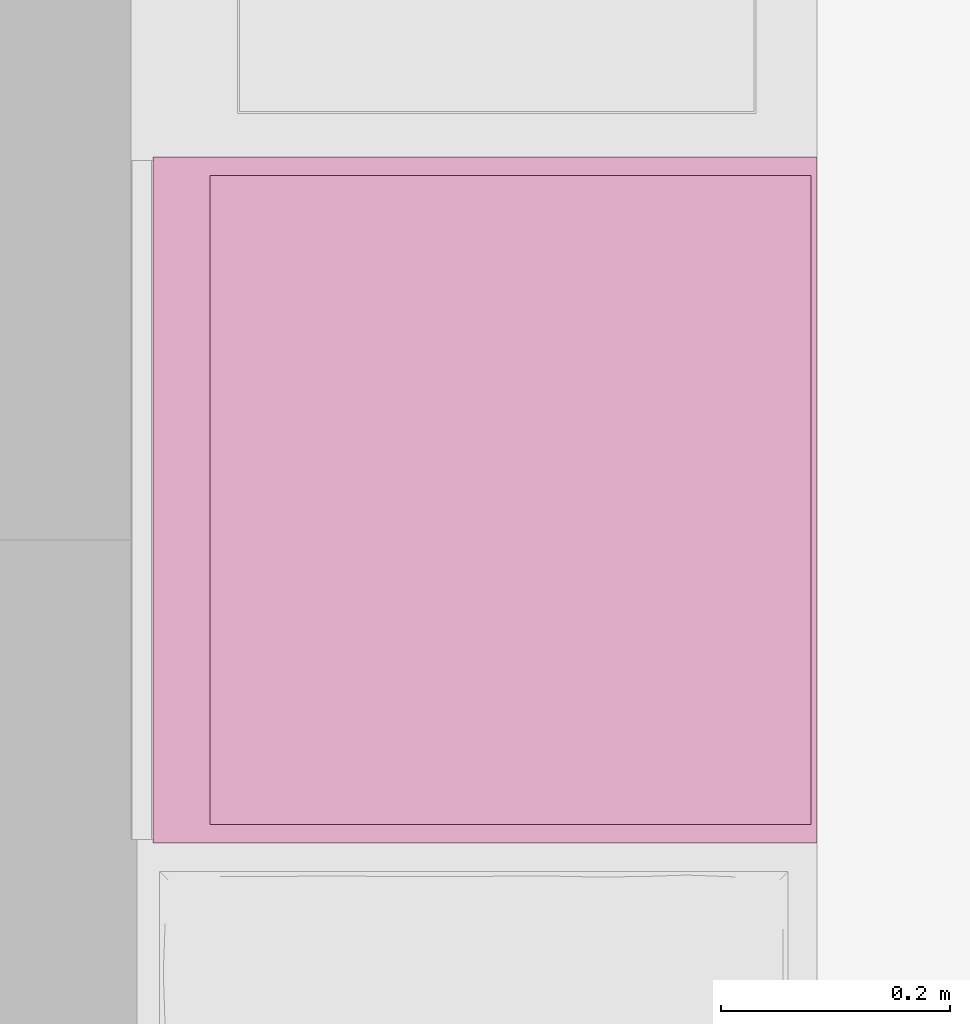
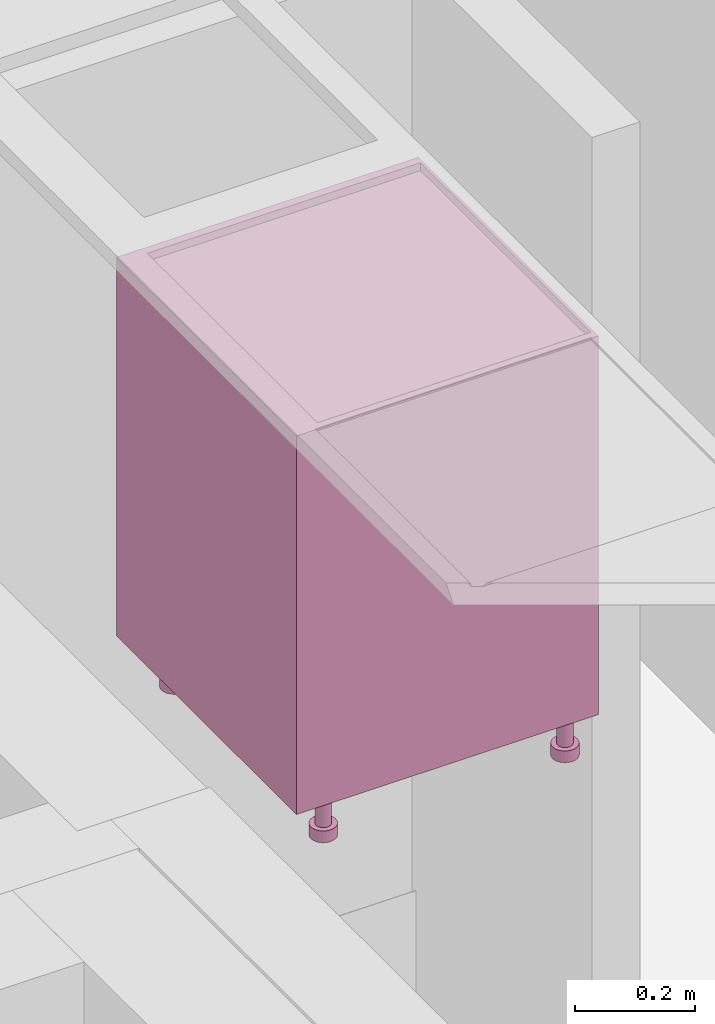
# One storey, part 23 of 68: 1 furnishing.
"""IFC2X3 building model written with IfcOpenShell, lengths in millimetres."""

import ifcopenshell
import ifcopenshell.guid

model = None  # the IFC model being written
_history = None  # IfcOwnerHistory: only IFC2X3 demands one
_inside = {}  # id of a spatial element -> (the spatial element, [elements in it])
_under = {}  # id of a project, library or spatial element -> (it, [spatial elements below it])
_declared = {}  # id of a project -> (the project, [libraries it declares])
_typed = {}  # id of a type object -> (the type object, [elements of that type])
_made_of = {}  # id of a material, layer set ... -> (it, [elements and type objects made of it])


def new_model(schema):
    """Start an empty IFC model of exactly this schema.

    Asked for "IFC4X3", IfcOpenShell would pick the latest addendum, in which some entities
    have other attributes; the version numbers below select the first issue.
    IFC2X3 requires an IfcOwnerHistory on every rooted entity: one is made here for all.
    """
    global model, _history
    if schema == "IFC4X3":
        model = ifcopenshell.file(schema_version=(4, 3, 0, 0))
    else:
        model = ifcopenshell.file(schema=schema)
    _inside.clear()
    _under.clear()
    _declared.clear()
    _typed.clear()
    _made_of.clear()
    _history = None
    if model.schema == "IFC2X3":
        org = make("IfcOrganization", Name="unknown")
        user = make(
            "IfcPersonAndOrganization",
            ThePerson=make("IfcPerson", FamilyName="unknown"),
            TheOrganization=org,
        )
        app = make(
            "IfcApplication",
            ApplicationDeveloper=org,
            Version="unknown",
            ApplicationFullName="unknown",
            ApplicationIdentifier="unknown",
        )
        _history = make(
            "IfcOwnerHistory",
            OwningUser=user,
            OwningApplication=app,
            ChangeAction="ADDED",
            CreationDate=0,
        )
    return model


def make(cls, **values):
    """One entity of the class cls with the attributes given. An attribute that is None is left unset."""
    return model.create_entity(
        cls, **{name: value for name, value in values.items() if value is not None}
    )


def entity(cls, *values):
    """Any entity or typed value of the class cls, its attributes in the order of the schema. None: left unset."""
    e = model.create_entity(cls)
    for i, value in enumerate(values):
        if value is not None:
            e[i] = value
    return e


def rooted(cls, **values):
    """An entity with a GlobalId (a new one), such as an element, a storey or a relation."""
    return make(cls, GlobalId=ifcopenshell.guid.new(), OwnerHistory=_history, **values)


def si_unit(unit_type, name, prefix=None):
    """IfcSIUnit, for example si_unit("LENGTHUNIT", "METRE", prefix="MILLI")."""
    return make("IfcSIUnit", UnitType=unit_type, Prefix=prefix, Name=name)


def converted_unit(unit_type, name, factor, base, dimensions=None, offset=None):
    """IfcConversionBasedUnit, such as the inch: factor (a typed value) times the base unit."""
    return make(
        "IfcConversionBasedUnit"
        if offset is None
        else "IfcConversionBasedUnitWithOffset",
        ConversionOffset=offset,
        Dimensions=None
        if dimensions is None
        else entity("IfcDimensionalExponents", *dimensions),
        UnitType=unit_type,
        Name=name,
        ConversionFactor=make(
            "IfcMeasureWithUnit", ValueComponent=factor, UnitComponent=base
        ),
    )


def assignment(units):
    """IfcUnitAssignment: the units of a project."""
    return None if units is None else make("IfcUnitAssignment", Units=units)


def point(xyz):
    """IfcCartesianPoint."""
    return None if xyz is None else make("IfcCartesianPoint", Coordinates=xyz)


def direction(xyz):
    """IfcDirection."""
    return None if xyz is None else make("IfcDirection", DirectionRatios=xyz)


def frame(location, z_axis=None, x_axis=None):
    """IfcAxis2Placement3D, a coordinate frame: its origin and axes. An axis left out is left unset."""
    return make(
        "IfcAxis2Placement3D",
        Location=point(location),
        Axis=direction(z_axis),
        RefDirection=direction(x_axis),
    )


def origin():
    """The frame at (0, 0, 0) with its axes left unset."""
    return frame((0.0, 0.0, 0.0))


def place(relative_to, where):
    """IfcLocalPlacement: puts the frame where relative to a parent placement (None: the world)."""
    return make(
        "IfcLocalPlacement", PlacementRelTo=relative_to, RelativePlacement=where
    )


def context(
    kind, dimensions, precision=None, world=None, true_north=None, identifier=None
):
    """IfcGeometricRepresentationContext, for example the 3D "Model" context."""
    return make(
        "IfcGeometricRepresentationContext",
        ContextIdentifier=identifier,
        ContextType=kind,
        CoordinateSpaceDimension=dimensions,
        Precision=precision,
        WorldCoordinateSystem=world,
        TrueNorth=true_north,
    )


def subcontext(parent, identifier, kind, view, scale=None):
    """IfcGeometricRepresentationSubContext, for example "Body" below "Model"."""
    return make(
        "IfcGeometricRepresentationSubContext",
        ContextIdentifier=identifier,
        ContextType=kind,
        ParentContext=parent,
        TargetScale=scale,
        TargetView=view,
    )


def project(units=None, contexts=None):
    """IfcProject with its units and contexts."""
    return rooted(
        "IfcProject",
        Name="project",
        RepresentationContexts=contexts,
        UnitsInContext=assignment(units),
    )


def spatial(cls, under=None, at=None, **own):
    """A site, building, storey or space (cls), placed at a placement, below another one or the project."""
    s = rooted(cls, ObjectPlacement=at, **own)
    if under is not None:
        _under.setdefault(under.id(), (under, []))[1].append(s)
    return s


def faces_of(points, faces, orient=None, outer=None):
    """IfcFace entities. A face is a list of loops; a loop is a list of indices into points, from 0.

    orient and outer hold one flag for each loop. By default every Orientation is true, the
    first loop of a face is its IfcFaceOuterBound and the others are IfcFaceBound.
    """
    made = []
    for i, loops in enumerate(faces):
        bounds = []
        for j, loop in enumerate(loops):
            is_outer = j == 0 if outer is None else outer[i][j]
            bounds.append(
                make(
                    "IfcFaceOuterBound" if is_outer else "IfcFaceBound",
                    Bound=make("IfcPolyLoop", Polygon=[points[k] for k in loop]),
                    Orientation=True if orient is None else orient[i][j],
                )
            )
        made.append(make("IfcFace", Bounds=bounds))
    return made


def faceted_brep(points, faces, orient=None, outer=None, voids=None):
    """IfcFacetedBrep: a solid bounded by flat faces; with voids (closed shells), ...WithVoids."""
    shared = [point(p) for p in points]
    hull = make("IfcClosedShell", CfsFaces=faces_of(shared, faces, orient, outer))
    if voids is None:
        return make("IfcFacetedBrep", Outer=hull)
    return make(
        "IfcFacetedBrepWithVoids",
        Outer=hull,
        Voids=[
            make(cls, CfsFaces=faces_of(shared, fs, o, b)) for cls, fs, o, b in voids
        ],
    )


def shape(context_of_items, identifier, shape_type, items):
    """IfcShapeRepresentation: the items that make up one representation, for example the "Body"."""
    return make(
        "IfcShapeRepresentation",
        ContextOfItems=context_of_items,
        RepresentationIdentifier=identifier,
        RepresentationType=shape_type,
        Items=items,
    )


def source(mapping_origin, context_of_items, identifier, shape_type, items):
    """IfcRepresentationMap: a shape defined once, which mapped items show again and again."""
    return make(
        "IfcRepresentationMap",
        MappingOrigin=mapping_origin,
        MappedRepresentation=shape(context_of_items, identifier, shape_type, items),
    )


def transform(
    local_origin,
    x_axis=None,
    y_axis=None,
    z_axis=None,
    scale=None,
    scale2=None,
    scale3=None,
    uniform=True,
):
    """IfcCartesianTransformationOperator3D, or its non-uniform kind. x_axis, y_axis, z_axis: its Axis1, 2, 3."""
    if uniform:
        return make(
            "IfcCartesianTransformationOperator3D",
            Axis1=direction(x_axis),
            Axis2=direction(y_axis),
            LocalOrigin=point(local_origin),
            Scale=scale,
            Axis3=direction(z_axis),
        )
    return make(
        "IfcCartesianTransformationOperator3DnonUniform",
        Axis1=direction(x_axis),
        Axis2=direction(y_axis),
        LocalOrigin=point(local_origin),
        Scale=scale,
        Axis3=direction(z_axis),
        Scale2=scale2,
        Scale3=scale3,
    )


def mapped(mapping_source, mapping_target):
    """IfcMappedItem: shows the shape of a source again, moved by a transform."""
    return make(
        "IfcMappedItem", MappingSource=mapping_source, MappingTarget=mapping_target
    )


def material(Name=None, Category=None):
    """IfcMaterial."""
    return make("IfcMaterial", Name=Name, Category=Category)


def made_of(thing, what):
    """Note that an element or type object is made of a material, layer set ...; save() writes the relation."""
    if what is not None:
        _made_of.setdefault(what.id(), (what, []))[1].append(thing)
    return thing


def type_object(cls, material=None, **own):
    """A type object (cls), such as IfcWallType, which elements share."""
    return made_of(rooted(cls, **own), material)


def type_shapes(of_type, sources):
    """Give a type object the sources (RepresentationMaps) that its elements show as mapped items."""
    of_type.RepresentationMaps = sources


def element(
    cls,
    number,
    at=None,
    inside=None,
    cuts=None,
    type_object=None,
    material=None,
    context=None,
    identifier="Body",
    shape_type=None,
    held_by="IfcProductDefinitionShape",
    body=None,
    shapes=None,
    **own,
):
    """One element of the class cls, such as IfcWall. Its Tag is "e" and its number.

    at: its placement. inside: the storey or other place that contains it. cuts: it is an
    opening in that element (IfcRelVoidsElement). A single representation is given by context,
    identifier, shape_type and body (its items); several are given by shapes. held_by: the class
    of the entity that holds the representations. save() writes the other relations.
    """
    e = rooted(cls, Tag="e%d" % number, ObjectPlacement=at, **own)
    if body is not None:
        shapes = [shape(context, identifier, shape_type, body)]
    if shapes is not None:
        e.Representation = make(held_by, Representations=shapes)
    if inside is not None:
        _inside.setdefault(inside.id(), (inside, []))[1].append(e)
    if cuts is not None:
        rooted(
            "IfcRelVoidsElement", RelatingBuildingElement=cuts, RelatedOpeningElement=e
        )
    if type_object is not None:
        _typed.setdefault(type_object.id(), (type_object, []))[1].append(e)
    return made_of(e, material)


def aggregate(whole, parts):
    """IfcRelAggregates: a whole, such as a stair, and the parts it consists of."""
    return rooted("IfcRelAggregates", RelatingObject=whole, RelatedObjects=parts)


def save(model, path):
    """Write the relations noted so far, then the file.

    IfcRelAggregates (storeys below a building ...), IfcRelContainedInSpatialStructure (elements
    in a storey), IfcRelDefinesByType, IfcRelAssociatesMaterial and IfcRelDeclares: one each for
    every whole, place, type object, material and project.
    """
    for whole, parts in _under.values():
        aggregate(whole, parts)
    for where, things in _inside.values():
        rooted(
            "IfcRelContainedInSpatialStructure",
            RelatedElements=things,
            RelatingStructure=where,
        )
    for kind, things in _typed.values():
        rooted("IfcRelDefinesByType", RelatedObjects=things, RelatingType=kind)
    for what, things in _made_of.values():
        rooted("IfcRelAssociatesMaterial", RelatedObjects=things, RelatingMaterial=what)
    for by, libraries in _declared.values():
        rooted("IfcRelDeclares", RelatingContext=by, RelatedDefinitions=libraries)
    model.write(path)


model = new_model("IFC2X3")

# Units and contexts
model_context = context("Model", 3, precision=0.01, world=origin(), true_north=direction((6.123233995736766e-17, 1.0)))
plan_context = context("Plan", 3, precision=0.01, world=origin(), true_north=direction((6.123233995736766e-17, 1.0)))
body_context = subcontext(model_context, "Body", "Model", "MODEL_VIEW")
ifc_project = project(units=[si_unit("LENGTHUNIT", "METRE", prefix="MILLI"), converted_unit("PLANEANGLEUNIT", "DEGREE", entity("IfcPlaneAngleMeasure", 0.017453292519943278), si_unit("PLANEANGLEUNIT", "RADIAN"), dimensions=[0, 0, 0, 0, 0, 0, 0]), si_unit("AREAUNIT", "SQUARE_METRE")], contexts=[model_context, plan_context])

# Site, building, storey, space
site_placement = place(None, origin())
site = spatial("IfcSite", under=ifc_project, at=site_placement, Name="Default", CompositionType="ELEMENT")
building_placement = place(site_placement, origin())
building = spatial("IfcBuilding", under=site, at=building_placement, CompositionType="ELEMENT")
storey_placement = place(building_placement, frame((0.0, 0.0, 6295.0)))
storey = spatial("IfcBuildingStorey", under=building, at=storey_placement, Name="3K", CompositionType="ELEMENT", Elevation=6294.999999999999)
space_placement = place(storey_placement, origin())
space = spatial("IfcSpace", under=storey, at=space_placement, Name="3-8.2", CompositionType="ELEMENT", InteriorOrExteriorSpace="INTERNAL")

# Furnishing
ifc_material = material(Name="<Unnamed>")
furniture_type = type_object("IfcFurnitureType", Name="HR_Casework_Kitchen_Generic_Appliance_v1:Dishwasher", AssemblyPlace="NOTDEFINED", material=ifc_material)
shared_shape = source(origin(), body_context, "Body", "Brep", [
    faceted_brep([(305.7003264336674, -585.7846096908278, -3101.0), (310.6708891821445, -581.9705627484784, -3101.0), (300.70032643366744, -577.1243556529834, -3101.0), (297.32379306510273, -578.5229615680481, -3101.0), (299.91198351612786, -588.1822198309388, -3101.0), (303.59982137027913, -574.8994949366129, -3101.0), (314.4849361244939, -577.0, -3101.0), (305.82468208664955, -572.0, -3101.0), (307.2232880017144, -568.6234666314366, -3101.0), (316.8825462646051, -571.2116570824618, -3101.0), (307.70032643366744, -565.0, -3101.0), (317.7003264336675, -565.0, -3101.0), (307.2232880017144, -561.3765333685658, -3101.0), (316.88254626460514, -558.7883429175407, -3101.0), (305.82468208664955, -558.0, -3101.0), (314.484936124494, -553.0, -3101.0), (303.59982137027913, -555.1005050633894, -3101.0), (310.67088918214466, -548.0294372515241, -3101.0), (300.70032643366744, -552.875644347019, -3101.0), (305.7003264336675, -544.2153903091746, -3101.0), (297.32379306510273, -551.4770384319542, -3101.0), (299.91198351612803, -541.8177801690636, -3101.0), (293.7003264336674, -551.0, -3101.0), (293.70032643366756, -541.0, -3101.0), (290.07685980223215, -551.4770384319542, -3101.0), (287.488669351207, -541.8177801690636, -3101.0), (286.70032643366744, -552.875644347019, -3101.0), (281.7003264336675, -544.2153903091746, -3101.0), (283.80083149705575, -555.1005050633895, -3101.0), (276.7297636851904, -548.029437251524, -3101.0), (281.5759707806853, -558.0, -3101.0), (272.91571674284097, -553.0, -3101.0), (270.51810660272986, -558.7883429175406, -3101.0), (280.1773648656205, -561.3765333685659, -3101.0), (269.7003264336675, -565.0, -3101.0), (279.7003264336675, -565.0, -3101.0), (270.51810660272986, -571.2116570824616, -3101.0), (280.1773648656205, -568.6234666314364, -3101.0), (272.9157167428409, -577.0, -3101.0), (281.57597078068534, -572.0, -3101.0), (276.7297636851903, -581.9705627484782, -3101.0), (283.80083149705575, -574.8994949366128, -3101.0), (281.70032643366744, -585.7846096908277, -3101.0), (286.70032643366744, -577.1243556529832, -3101.0), (287.4886693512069, -588.1822198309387, -3101.0), (290.07685980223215, -578.5229615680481, -3101.0), (293.7003264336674, -589.0, -3101.0), (293.70032643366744, -579.0, -3101.0), (299.91198351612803, -541.8177801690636, -3125.0), (305.7003264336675, -544.2153903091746, -3125.0), (310.67088918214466, -548.0294372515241, -3125.0), (314.484936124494, -553.0, -3125.0), (316.88254626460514, -558.7883429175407, -3125.0), (317.7003264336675, -565.0, -3125.0), (316.8825462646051, -571.2116570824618, -3125.0), (314.4849361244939, -577.0, -3125.0), (310.6708891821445, -581.9705627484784, -3125.0), (305.7003264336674, -585.7846096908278, -3125.0), (299.91198351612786, -588.1822198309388, -3125.0), (293.7003264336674, -589.0, -3125.0), (287.4886693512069, -588.1822198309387, -3125.0), (281.70032643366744, -585.7846096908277, -3125.0), (276.7297636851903, -581.9705627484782, -3125.0), (272.9157167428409, -577.0, -3125.0), (270.51810660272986, -571.2116570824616, -3125.0), (269.7003264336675, -565.0, -3125.0), (270.51810660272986, -558.7883429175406, -3125.0), (272.91571674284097, -553.0, -3125.0), (276.7297636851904, -548.029437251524, -3125.0), (281.7003264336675, -544.2153903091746, -3125.0), (287.488669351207, -541.8177801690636, -3125.0), (293.70032643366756, -541.0, -3125.0), (297.32379306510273, -578.5229615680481, -3025.0), (300.70032643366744, -577.1243556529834, -3025.0), (303.59982137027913, -574.8994949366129, -3025.0), (305.8246820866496, -572.0, -3025.0), (307.2232880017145, -568.6234666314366, -3025.0), (307.70032643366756, -565.0, -3025.0), (307.2232880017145, -561.3765333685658, -3025.0), (305.8246820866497, -558.0, -3025.0), (303.5998213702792, -555.1005050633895, -3025.0), (300.70032643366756, -552.875644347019, -3025.0), (297.32379306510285, -551.4770384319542, -3025.0), (293.70032643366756, -551.0, -3025.0), (290.07685980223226, -551.4770384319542, -3025.0), (286.70032643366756, -552.875644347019, -3025.0), (283.80083149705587, -555.1005050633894, -3025.0), (281.5759707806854, -558.0, -3025.0), (280.1773648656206, -561.3765333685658, -3025.0), (279.70032643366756, -565.0, -3025.0), (280.1773648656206, -568.6234666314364, -3025.0), (281.5759707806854, -572.0, -3025.0), (283.8008314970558, -574.8994949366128, -3025.0), (286.7003264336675, -577.1243556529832, -3025.0), (290.07685980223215, -578.5229615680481, -3025.0), (293.70032643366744, -579.0, -3025.0)], [[[0, 1, 2]], [[0, 2, 3]], [[3, 4, 0]], [[2, 1, 5]], [[6, 5, 1]], [[7, 5, 6]], [[8, 7, 6]], [[8, 6, 9]], [[8, 9, 10]], [[10, 9, 11]], [[12, 10, 11]], [[12, 11, 13]], [[14, 12, 13]], [[14, 13, 15]], [[16, 14, 15]], [[15, 17, 16]], [[17, 18, 16]], [[18, 17, 19]], [[18, 19, 20]], [[21, 20, 19]], [[20, 21, 22]], [[22, 21, 23]], [[23, 24, 22]], [[24, 23, 25]], [[24, 25, 26]], [[27, 26, 25]], [[27, 28, 26]], [[27, 29, 28]], [[30, 28, 29]], [[31, 30, 29]], [[32, 30, 31]], [[33, 30, 32]], [[33, 32, 34]], [[34, 35, 33]], [[36, 35, 34]], [[36, 37, 35]], [[37, 36, 38]], [[39, 37, 38]], [[39, 38, 40]], [[39, 40, 41]], [[40, 42, 41]], [[41, 42, 43]], [[43, 42, 44]], [[44, 45, 43]], [[46, 45, 44]], [[4, 47, 46]], [[45, 46, 47]], [[4, 3, 47]], [[48, 49, 50, 51, 52, 53, 54, 55, 56, 57, 58, 59, 60, 61, 62, 63, 64, 65, 66, 67, 68, 69, 70, 71]], [[64, 36, 34, 65]], [[63, 38, 36, 64]], [[42, 40, 62, 61]], [[63, 62, 40, 38]], [[44, 42, 61, 60]], [[46, 44, 60, 59]], [[58, 4, 46, 59]], [[57, 0, 4, 58]], [[54, 53, 11, 9]], [[1, 0, 57, 56]], [[6, 55, 54, 9]], [[6, 1, 56, 55]], [[52, 13, 11, 53]], [[51, 15, 13, 52]], [[19, 17, 50, 49]], [[51, 50, 17, 15]], [[21, 19, 49, 48]], [[23, 21, 48, 71]], [[27, 69, 68, 29]], [[31, 67, 66, 32]], [[68, 67, 31, 29]], [[32, 66, 65, 34]], [[25, 70, 69, 27]], [[70, 25, 23, 71]], [[72, 73, 74, 75, 76, 77, 78, 79, 80, 81, 82, 83, 84, 85, 86, 87, 88, 89, 90, 91, 92, 93, 94, 95]], [[37, 39, 91, 90]], [[35, 37, 90, 89]], [[43, 45, 94, 93]], [[41, 43, 93, 92]], [[39, 41, 92, 91]], [[47, 95, 94, 45]], [[2, 5, 74, 73]], [[3, 2, 73, 72]], [[8, 10, 77, 76]], [[7, 8, 76, 75]], [[5, 7, 75, 74]], [[3, 72, 95, 47]], [[79, 78, 12, 14]], [[78, 77, 10, 12]], [[80, 16, 18, 81]], [[16, 80, 79, 14]], [[81, 18, 20, 82]], [[22, 83, 82, 20]], [[26, 28, 86, 85]], [[24, 26, 85, 84]], [[33, 35, 89, 88]], [[30, 33, 88, 87]], [[28, 30, 87, 86]], [[24, 84, 83, 22]]]),
    faceted_brep([(-192.29967356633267, -585.7846096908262, -3101.0), (-187.3291108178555, -581.9705627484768, -3101.0), (-197.29967356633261, -577.1243556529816, -3101.0), (-200.67620693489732, -578.5229615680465, -3101.0), (-198.08801648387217, -588.1822198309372, -3101.0), (-194.40017862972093, -574.8994949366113, -3101.0), (-183.51506387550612, -577.0, -3101.0), (-192.17531791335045, -572.0, -3101.0), (-190.77671199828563, -568.6234666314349, -3101.0), (-181.11745373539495, -571.2116570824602, -3101.0), (-190.29967356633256, -565.0, -3101.0), (-180.29967356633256, -565.0, -3101.0), (-190.77671199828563, -561.3765333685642, -3101.0), (-181.11745373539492, -558.788342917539, -3101.0), (-192.17531791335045, -558.0, -3101.0), (-183.515063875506, -553.0, -3101.0), (-194.40017862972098, -555.1005050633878, -3101.0), (-187.3291108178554, -548.0294372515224, -3101.0), (-197.29967356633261, -552.8756443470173, -3101.0), (-192.29967356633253, -544.215390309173, -3101.0), (-200.67620693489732, -551.4770384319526, -3101.0), (-198.08801648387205, -541.8177801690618, -3101.0), (-204.29967356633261, -551.0, -3101.0), (-204.29967356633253, -541.0, -3101.0), (-207.92314019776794, -551.4770384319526, -3101.0), (-210.51133064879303, -541.8177801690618, -3101.0), (-211.29967356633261, -552.8756443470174, -3101.0), (-216.29967356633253, -544.215390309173, -3101.0), (-214.19916850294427, -555.1005050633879, -3101.0), (-221.27023631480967, -548.0294372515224, -3101.0), (-216.42402921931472, -558.0, -3101.0), (-225.08428325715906, -553.0, -3101.0), (-227.48189339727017, -558.788342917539, -3101.0), (-217.8226351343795, -561.3765333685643, -3101.0), (-228.2996735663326, -565.0, -3101.0), (-218.29967356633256, -565.0, -3101.0), (-227.48189339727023, -571.21165708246, -3101.0), (-217.8226351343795, -568.6234666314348, -3101.0), (-225.08428325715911, -577.0, -3101.0), (-216.42402921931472, -572.0, -3101.0), (-221.27023631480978, -581.9705627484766, -3101.0), (-214.19916850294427, -574.8994949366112, -3101.0), (-216.29967356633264, -585.784609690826, -3101.0), (-211.29967356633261, -577.1243556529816, -3101.0), (-210.51133064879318, -588.1822198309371, -3101.0), (-207.9231401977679, -578.5229615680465, -3101.0), (-204.2996735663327, -589.0, -3101.0), (-204.29967356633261, -579.0, -3101.0), (-198.08801648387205, -541.8177801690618, -3125.0), (-192.29967356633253, -544.215390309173, -3125.0), (-187.3291108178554, -548.0294372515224, -3125.0), (-183.515063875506, -553.0, -3125.0), (-181.11745373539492, -558.788342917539, -3125.0), (-180.29967356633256, -565.0, -3125.0), (-181.11745373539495, -571.2116570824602, -3125.0), (-183.51506387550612, -577.0, -3125.0), (-187.3291108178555, -581.9705627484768, -3125.0), (-192.29967356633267, -585.7846096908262, -3125.0), (-198.08801648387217, -588.1822198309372, -3125.0), (-204.2996735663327, -589.0, -3125.0), (-210.51133064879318, -588.1822198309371, -3125.0), (-216.29967356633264, -585.784609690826, -3125.0), (-221.27023631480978, -581.9705627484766, -3125.0), (-225.08428325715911, -577.0, -3125.0), (-227.48189339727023, -571.21165708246, -3125.0), (-228.2996735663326, -565.0, -3125.0), (-227.48189339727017, -558.788342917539, -3125.0), (-225.08428325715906, -553.0, -3125.0), (-221.27023631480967, -548.0294372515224, -3125.0), (-216.29967356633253, -544.215390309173, -3125.0), (-210.51133064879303, -541.8177801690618, -3125.0), (-204.29967356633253, -541.0, -3125.0), (-200.67620693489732, -578.5229615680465, -3025.0), (-197.29967356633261, -577.1243556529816, -3025.0), (-194.40017862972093, -574.8994949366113, -3025.0), (-192.17531791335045, -572.0, -3025.0), (-190.77671199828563, -568.6234666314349, -3025.0), (-190.29967356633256, -565.0, -3025.0), (-190.77671199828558, -561.3765333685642, -3025.0), (-192.1753179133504, -558.0, -3025.0), (-194.40017862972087, -555.1005050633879, -3025.0), (-197.29967356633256, -552.8756443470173, -3025.0), (-200.67620693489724, -551.4770384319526, -3025.0), (-204.29967356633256, -551.0, -3025.0), (-207.92314019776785, -551.4770384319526, -3025.0), (-211.29967356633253, -552.8756443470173, -3025.0), (-214.1991685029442, -555.1005050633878, -3025.0), (-216.4240292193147, -558.0, -3025.0), (-217.8226351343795, -561.3765333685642, -3025.0), (-218.29967356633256, -565.0, -3025.0), (-217.8226351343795, -568.6234666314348, -3025.0), (-216.42402921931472, -572.0, -3025.0), (-214.19916850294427, -574.8994949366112, -3025.0), (-211.2996735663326, -577.1243556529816, -3025.0), (-207.9231401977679, -578.5229615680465, -3025.0), (-204.29967356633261, -579.0, -3025.0)], [[[0, 1, 2]], [[0, 2, 3]], [[3, 4, 0]], [[2, 1, 5]], [[6, 5, 1]], [[7, 5, 6]], [[8, 7, 6]], [[8, 6, 9]], [[8, 9, 10]], [[10, 9, 11]], [[12, 10, 11]], [[12, 11, 13]], [[14, 12, 13]], [[14, 13, 15]], [[16, 14, 15]], [[15, 17, 16]], [[17, 18, 16]], [[18, 17, 19]], [[18, 19, 20]], [[21, 20, 19]], [[20, 21, 22]], [[22, 21, 23]], [[23, 24, 22]], [[24, 23, 25]], [[24, 25, 26]], [[27, 26, 25]], [[27, 28, 26]], [[27, 29, 28]], [[30, 28, 29]], [[31, 30, 29]], [[32, 30, 31]], [[33, 30, 32]], [[33, 32, 34]], [[34, 35, 33]], [[36, 35, 34]], [[36, 37, 35]], [[37, 36, 38]], [[39, 37, 38]], [[39, 38, 40]], [[39, 40, 41]], [[40, 42, 41]], [[41, 42, 43]], [[43, 42, 44]], [[44, 45, 43]], [[46, 45, 44]], [[4, 47, 46]], [[45, 46, 47]], [[4, 3, 47]], [[48, 49, 50, 51, 52, 53, 54, 55, 56, 57, 58, 59, 60, 61, 62, 63, 64, 65, 66, 67, 68, 69, 70, 71]], [[64, 36, 34, 65]], [[63, 38, 36, 64]], [[42, 40, 62, 61]], [[63, 62, 40, 38]], [[44, 42, 61, 60]], [[46, 44, 60, 59]], [[58, 4, 46, 59]], [[57, 0, 4, 58]], [[54, 53, 11, 9]], [[1, 0, 57, 56]], [[6, 55, 54, 9]], [[6, 1, 56, 55]], [[52, 13, 11, 53]], [[51, 15, 13, 52]], [[19, 17, 50, 49]], [[51, 50, 17, 15]], [[21, 19, 49, 48]], [[23, 21, 48, 71]], [[27, 69, 68, 29]], [[31, 67, 66, 32]], [[68, 67, 31, 29]], [[32, 66, 65, 34]], [[25, 70, 69, 27]], [[70, 25, 23, 71]], [[72, 73, 74, 75, 76, 77, 78, 79, 80, 81, 82, 83, 84, 85, 86, 87, 88, 89, 90, 91, 92, 93, 94, 95]], [[37, 39, 91, 90]], [[35, 37, 90, 89]], [[43, 45, 94, 93]], [[41, 43, 93, 92]], [[39, 41, 92, 91]], [[47, 95, 94, 45]], [[2, 5, 74, 73]], [[3, 2, 73, 72]], [[8, 10, 77, 76]], [[7, 8, 76, 75]], [[5, 7, 75, 74]], [[3, 72, 95, 47]], [[79, 78, 12, 14]], [[78, 77, 10, 12]], [[80, 16, 18, 81]], [[16, 80, 79, 14]], [[81, 18, 20, 82]], [[22, 83, 82, 20]], [[26, 28, 86, 85]], [[24, 26, 85, 84]], [[33, 35, 89, 88]], [[30, 33, 88, 87]], [[28, 30, 87, 86]], [[24, 84, 83, 22]]]),
    faceted_brep([(305.70032643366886, -120.78460969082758, -3101.0), (310.670889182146, -116.97056274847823, -3101.0), (300.7003264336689, -112.12435565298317, -3101.0), (297.3237930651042, -113.52296156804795, -3101.0), (299.91198351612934, -123.18221983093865, -3101.0), (303.5998213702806, -109.8994949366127, -3101.0), (314.48493612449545, -112.0, -3101.0), (305.824682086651, -107.0, -3101.0), (307.2232880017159, -103.62346663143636, -3101.0), (316.88254626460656, -106.21165708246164, -3101.0), (307.700326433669, -100.0, -3101.0), (317.700326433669, -100.0, -3101.0), (307.2232880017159, -96.3765333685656, -3101.0), (316.8825462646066, -93.78834291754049, -3101.0), (305.824682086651, -93.0, -3101.0), (314.4849361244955, -88.0, -3101.0), (303.5998213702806, -90.10050506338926, -3101.0), (310.67088918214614, -83.02943725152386, -3101.0), (300.7003264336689, -87.8756443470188, -3101.0), (305.700326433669, -79.21539030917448, -3101.0), (297.3237930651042, -86.477038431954, -3101.0), (299.9119835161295, -76.81778016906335, -3101.0), (293.70032643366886, -86.0, -3101.0), (293.70032643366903, -76.0, -3101.0), (290.0768598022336, -86.47703843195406, -3101.0), (287.4886693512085, -76.81778016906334, -3101.0), (286.7003264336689, -87.87564434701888, -3101.0), (281.700326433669, -79.21539030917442, -3101.0), (283.8008314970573, -90.10050506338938, -3101.0), (276.72976368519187, -83.0294372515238, -3101.0), (281.5759707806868, -93.0, -3101.0), (272.91571674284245, -88.0, -3101.0), (270.51810660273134, -93.78834291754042, -3101.0), (280.177364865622, -96.37653336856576, -3101.0), (269.700326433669, -100.0, -3101.0), (279.700326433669, -100.0, -3101.0), (270.51810660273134, -106.2116570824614, -3101.0), (280.177364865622, -103.62346663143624, -3101.0), (272.9157167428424, -112.0, -3101.0), (281.5759707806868, -107.0, -3101.0), (276.72976368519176, -116.97056274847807, -3101.0), (283.8008314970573, -109.89949493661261, -3101.0), (281.7003264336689, -120.78460969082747, -3101.0), (286.7003264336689, -112.1243556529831, -3101.0), (287.4886693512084, -123.1822198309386, -3101.0), (290.0768598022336, -113.52296156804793, -3101.0), (293.70032643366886, -124.0, -3101.0), (293.7003264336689, -114.0, -3101.0), (299.9119835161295, -76.81778016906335, -3125.0), (305.700326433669, -79.21539030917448, -3125.0), (310.67088918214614, -83.02943725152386, -3125.0), (314.4849361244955, -88.0, -3125.0), (316.8825462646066, -93.78834291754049, -3125.0), (317.700326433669, -100.0, -3125.0), (316.88254626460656, -106.21165708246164, -3125.0), (314.48493612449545, -112.0, -3125.0), (310.670889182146, -116.97056274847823, -3125.0), (305.70032643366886, -120.78460969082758, -3125.0), (299.91198351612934, -123.18221983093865, -3125.0), (293.70032643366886, -124.0, -3125.0), (287.4886693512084, -123.1822198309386, -3125.0), (281.7003264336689, -120.78460969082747, -3125.0), (276.72976368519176, -116.97056274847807, -3125.0), (272.9157167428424, -112.0, -3125.0), (270.51810660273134, -106.2116570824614, -3125.0), (269.700326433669, -100.0, -3125.0), (270.51810660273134, -93.78834291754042, -3125.0), (272.91571674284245, -88.0, -3125.0), (276.72976368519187, -83.0294372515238, -3125.0), (281.700326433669, -79.21539030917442, -3125.0), (287.4886693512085, -76.81778016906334, -3125.0), (293.70032643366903, -76.0, -3125.0), (297.32379306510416, -113.52296156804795, -3025.0), (300.70032643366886, -112.12435565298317, -3025.0), (303.59982137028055, -109.8994949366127, -3025.0), (305.824682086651, -107.0, -3025.0), (307.22328800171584, -103.62346663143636, -3025.0), (307.700326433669, -100.0, -3025.0), (307.2232880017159, -96.3765333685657, -3025.0), (305.82468208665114, -93.0, -3025.0), (303.5998213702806, -90.10050506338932, -3025.0), (300.700326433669, -87.87564434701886, -3025.0), (297.32379306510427, -86.47703843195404, -3025.0), (293.700326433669, -86.0, -3025.0), (290.0768598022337, -86.47703843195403, -3025.0), (286.700326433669, -87.87564434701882, -3025.0), (283.8008314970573, -90.1005050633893, -3025.0), (281.5759707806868, -93.0, -3025.0), (280.177364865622, -96.37653336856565, -3025.0), (279.700326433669, -100.0, -3025.0), (280.177364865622, -103.62346663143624, -3025.0), (281.5759707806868, -107.0, -3025.0), (283.80083149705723, -109.89949493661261, -3025.0), (286.7003264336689, -112.1243556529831, -3025.0), (290.07685980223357, -113.52296156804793, -3025.0), (293.70032643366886, -114.0, -3025.0)], [[[0, 1, 2]], [[0, 2, 3]], [[3, 4, 0]], [[2, 1, 5]], [[6, 5, 1]], [[7, 5, 6]], [[8, 7, 6]], [[8, 6, 9]], [[8, 9, 10]], [[10, 9, 11]], [[12, 10, 11]], [[12, 11, 13]], [[14, 12, 13]], [[14, 13, 15]], [[16, 14, 15]], [[15, 17, 16]], [[17, 18, 16]], [[18, 17, 19]], [[18, 19, 20]], [[21, 20, 19]], [[20, 21, 22]], [[22, 21, 23]], [[23, 24, 22]], [[24, 23, 25]], [[24, 25, 26]], [[27, 26, 25]], [[27, 28, 26]], [[27, 29, 28]], [[30, 28, 29]], [[31, 30, 29]], [[32, 30, 31]], [[33, 30, 32]], [[33, 32, 34]], [[34, 35, 33]], [[36, 35, 34]], [[36, 37, 35]], [[37, 36, 38]], [[39, 37, 38]], [[39, 38, 40]], [[39, 40, 41]], [[40, 42, 41]], [[41, 42, 43]], [[43, 42, 44]], [[44, 45, 43]], [[46, 45, 44]], [[4, 47, 46]], [[45, 46, 47]], [[4, 3, 47]], [[48, 49, 50, 51, 52, 53, 54, 55, 56, 57, 58, 59, 60, 61, 62, 63, 64, 65, 66, 67, 68, 69, 70, 71]], [[64, 36, 34, 65]], [[63, 38, 36, 64]], [[42, 40, 62, 61]], [[63, 62, 40, 38]], [[44, 42, 61, 60]], [[46, 44, 60, 59]], [[58, 4, 46, 59]], [[57, 0, 4, 58]], [[54, 53, 11, 9]], [[1, 0, 57, 56]], [[6, 55, 54, 9]], [[6, 1, 56, 55]], [[52, 13, 11, 53]], [[51, 15, 13, 52]], [[19, 17, 50, 49]], [[51, 50, 17, 15]], [[21, 19, 49, 48]], [[23, 21, 48, 71]], [[27, 69, 68, 29]], [[31, 67, 66, 32]], [[68, 67, 31, 29]], [[32, 66, 65, 34]], [[25, 70, 69, 27]], [[70, 25, 23, 71]], [[72, 73, 74, 75, 76, 77, 78, 79, 80, 81, 82, 83, 84, 85, 86, 87, 88, 89, 90, 91, 92, 93, 94, 95]], [[37, 39, 91, 90]], [[35, 37, 90, 89]], [[43, 45, 94, 93]], [[41, 43, 93, 92]], [[39, 41, 92, 91]], [[47, 95, 94, 45]], [[2, 5, 74, 73]], [[3, 2, 73, 72]], [[8, 10, 77, 76]], [[7, 8, 76, 75]], [[5, 7, 75, 74]], [[3, 72, 95, 47]], [[79, 78, 12, 14]], [[78, 77, 10, 12]], [[80, 16, 18, 81]], [[16, 80, 79, 14]], [[81, 18, 20, 82]], [[22, 83, 82, 20]], [[26, 28, 86, 85]], [[24, 26, 85, 84]], [[33, 35, 89, 88]], [[30, 33, 88, 87]], [[28, 30, 87, 86]], [[24, 84, 83, 22]]]),
    faceted_brep([(-192.299673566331, -120.78460969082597, -3101.0), (-187.3291108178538, -116.97056274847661, -3101.0), (-197.29967356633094, -112.12435565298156, -3101.0), (-200.67620693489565, -113.52296156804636, -3101.0), (-198.0880164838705, -123.18221983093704, -3101.0), (-194.40017862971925, -109.89949493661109, -3101.0), (-183.5150638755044, -112.0, -3101.0), (-192.17531791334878, -107.0, -3101.0), (-190.77671199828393, -103.62346663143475, -3101.0), (-181.11745373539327, -106.21165708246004, -3101.0), (-190.29967356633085, -100.0, -3101.0), (-180.29967356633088, -100.0, -3101.0), (-190.77671199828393, -96.376533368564, -3101.0), (-181.11745373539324, -93.78834291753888, -3101.0), (-192.17531791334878, -93.0, -3101.0), (-183.51506387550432, -88.0, -3101.0), (-194.40017862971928, -90.10050506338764, -3101.0), (-187.32911081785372, -83.02943725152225, -3101.0), (-197.29967356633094, -87.8756443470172, -3101.0), (-192.29967356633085, -79.21539030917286, -3101.0), (-200.67620693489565, -86.4770384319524, -3101.0), (-198.08801648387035, -76.81778016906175, -3101.0), (-204.29967356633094, -86.0, -3101.0), (-204.29967356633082, -76.0, -3101.0), (-207.92314019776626, -86.47703843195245, -3101.0), (-210.51133064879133, -76.81778016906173, -3101.0), (-211.29967356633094, -87.87564434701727, -3101.0), (-216.29967356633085, -79.21539030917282, -3101.0), (-214.19916850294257, -90.10050506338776, -3101.0), (-221.270236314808, -83.0294372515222, -3101.0), (-216.424029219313, -93.0, -3101.0), (-225.08428325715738, -88.0, -3101.0), (-227.4818933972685, -93.78834291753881, -3101.0), (-217.82263513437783, -96.37653336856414, -3101.0), (-228.29967356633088, -100.0, -3101.0), (-218.29967356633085, -100.0, -3101.0), (-227.48189339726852, -106.2116570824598, -3101.0), (-217.82263513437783, -103.62346663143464, -3101.0), (-225.08428325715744, -112.0, -3101.0), (-216.424029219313, -107.0, -3101.0), (-221.27023631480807, -116.97056274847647, -3101.0), (-214.19916850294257, -109.899494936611, -3101.0), (-216.29967356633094, -120.78460969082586, -3101.0), (-211.29967356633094, -112.12435565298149, -3101.0), (-210.51133064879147, -123.18221983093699, -3101.0), (-207.9231401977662, -113.52296156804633, -3101.0), (-204.299673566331, -124.0, -3101.0), (-204.29967356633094, -114.0, -3101.0), (-198.08801648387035, -76.81778016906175, -3125.0), (-192.29967356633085, -79.21539030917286, -3125.0), (-187.32911081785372, -83.02943725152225, -3125.0), (-183.51506387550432, -88.0, -3125.0), (-181.11745373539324, -93.78834291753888, -3125.0), (-180.29967356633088, -100.0, -3125.0), (-181.11745373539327, -106.21165708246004, -3125.0), (-183.5150638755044, -112.0, -3125.0), (-187.3291108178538, -116.97056274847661, -3125.0), (-192.299673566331, -120.78460969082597, -3125.0), (-198.0880164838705, -123.18221983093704, -3125.0), (-204.299673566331, -124.0, -3125.0), (-210.51133064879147, -123.18221983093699, -3125.0), (-216.29967356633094, -120.78460969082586, -3125.0), (-221.27023631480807, -116.97056274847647, -3125.0), (-225.08428325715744, -112.0, -3125.0), (-227.48189339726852, -106.2116570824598, -3125.0), (-228.29967356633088, -100.0, -3125.0), (-227.4818933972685, -93.78834291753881, -3125.0), (-225.08428325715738, -88.0, -3125.0), (-221.270236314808, -83.0294372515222, -3125.0), (-216.29967356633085, -79.21539030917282, -3125.0), (-210.51133064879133, -76.81778016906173, -3125.0), (-204.29967356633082, -76.0, -3125.0), (-200.67620693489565, -113.52296156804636, -3025.0), (-197.29967356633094, -112.12435565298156, -3025.0), (-194.40017862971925, -109.89949493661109, -3025.0), (-192.17531791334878, -107.0, -3025.0), (-190.77671199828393, -103.62346663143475, -3025.0), (-190.29967356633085, -100.0, -3025.0), (-190.7767119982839, -96.3765333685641, -3025.0), (-192.1753179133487, -93.0, -3025.0), (-194.4001786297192, -90.10050506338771, -3025.0), (-197.29967356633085, -87.87564434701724, -3025.0), (-200.67620693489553, -86.47703843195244, -3025.0), (-204.29967356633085, -86.0, -3025.0), (-207.92314019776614, -86.47703843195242, -3025.0), (-211.29967356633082, -87.87564434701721, -3025.0), (-214.1991685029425, -90.10050506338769, -3025.0), (-216.42402921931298, -93.0, -3025.0), (-217.82263513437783, -96.37653336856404, -3025.0), (-218.29967356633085, -100.0, -3025.0), (-217.82263513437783, -103.62346663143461, -3025.0), (-216.424029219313, -107.0, -3025.0), (-214.19916850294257, -109.899494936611, -3025.0), (-211.29967356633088, -112.12435565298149, -3025.0), (-207.9231401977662, -113.52296156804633, -3025.0), (-204.29967356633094, -114.0, -3025.0)], [[[0, 1, 2]], [[0, 2, 3]], [[3, 4, 0]], [[2, 1, 5]], [[6, 5, 1]], [[7, 5, 6]], [[8, 7, 6]], [[8, 6, 9]], [[8, 9, 10]], [[10, 9, 11]], [[12, 10, 11]], [[12, 11, 13]], [[14, 12, 13]], [[14, 13, 15]], [[16, 14, 15]], [[15, 17, 16]], [[17, 18, 16]], [[18, 17, 19]], [[18, 19, 20]], [[21, 20, 19]], [[20, 21, 22]], [[22, 21, 23]], [[23, 24, 22]], [[24, 23, 25]], [[24, 25, 26]], [[27, 26, 25]], [[27, 28, 26]], [[27, 29, 28]], [[30, 28, 29]], [[31, 30, 29]], [[32, 30, 31]], [[33, 30, 32]], [[33, 32, 34]], [[34, 35, 33]], [[36, 35, 34]], [[36, 37, 35]], [[37, 36, 38]], [[39, 37, 38]], [[39, 38, 40]], [[39, 40, 41]], [[40, 42, 41]], [[41, 42, 43]], [[43, 42, 44]], [[44, 45, 43]], [[46, 45, 44]], [[4, 47, 46]], [[45, 46, 47]], [[4, 3, 47]], [[48, 49, 50, 51, 52, 53, 54, 55, 56, 57, 58, 59, 60, 61, 62, 63, 64, 65, 66, 67, 68, 69, 70, 71]], [[64, 36, 34, 65]], [[63, 38, 36, 64]], [[42, 40, 62, 61]], [[63, 62, 40, 38]], [[44, 42, 61, 60]], [[46, 44, 60, 59]], [[58, 4, 46, 59]], [[57, 0, 4, 58]], [[54, 53, 11, 9]], [[1, 0, 57, 56]], [[6, 55, 54, 9]], [[6, 1, 56, 55]], [[52, 13, 11, 53]], [[51, 15, 13, 52]], [[19, 17, 50, 49]], [[51, 50, 17, 15]], [[21, 19, 49, 48]], [[23, 21, 48, 71]], [[27, 69, 68, 29]], [[31, 67, 66, 32]], [[68, 67, 31, 29]], [[32, 66, 65, 34]], [[25, 70, 69, 27]], [[70, 25, 23, 71]], [[72, 73, 74, 75, 76, 77, 78, 79, 80, 81, 82, 83, 84, 85, 86, 87, 88, 89, 90, 91, 92, 93, 94, 95]], [[37, 39, 91, 90]], [[35, 37, 90, 89]], [[43, 45, 94, 93]], [[41, 43, 93, 92]], [[39, 41, 92, 91]], [[47, 95, 94, 45]], [[2, 5, 74, 73]], [[3, 2, 73, 72]], [[8, 10, 77, 76]], [[7, 8, 76, 75]], [[5, 7, 75, 74]], [[3, 72, 95, 47]], [[79, 78, 12, 14]], [[78, 77, 10, 12]], [[80, 16, 18, 81]], [[16, 80, 79, 14]], [[81, 18, 20, 82]], [[22, 83, 82, 20]], [[26, 28, 86, 85]], [[24, 26, 85, 84]], [[33, 35, 89, 88]], [[30, 33, 88, 87]], [[28, 30, 87, 86]], [[24, 84, 83, 22]]]),
    faceted_brep([(328.70032643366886, -19.0, -3009.0), (-239.2996735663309, -19.0, -3009.0), (-239.29967356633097, -595.0, -3009.0), (328.70032643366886, -595.0, -3009.0), (328.70032643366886, -19.0, -3025.0), (328.70032643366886, -595.0, -3025.0), (-239.29967356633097, -595.0, -3025.0), (-239.29967356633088, -19.0, -3025.0)], [[[0, 1, 2, 3]], [[4, 5, 6, 7]], [[1, 0, 4, 7]], [[2, 1, 7, 6]], [[3, 2, 6, 5]], [[0, 3, 5, 4]]]),
    faceted_brep([(-255.29967356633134, -19.0, -2255.0), (-255.2996735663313, -600.0, -2255.0), (344.7003264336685, -600.0, -2255.0), (344.7003264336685, -19.0, -2255.0), (328.70032643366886, -19.0, -2255.0), (328.70032643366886, -595.0, -2255.0), (-239.2996735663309, -595.0, -2255.0), (-239.2996735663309, -19.0, -2255.0), (-255.29967356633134, -19.0, -3025.0), (-239.2996735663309, -19.0, -3025.0), (-239.29967356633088, -595.0, -3025.0), (328.70032643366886, -595.0, -3025.0), (328.70032643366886, -19.0, -3025.0), (344.7003264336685, -19.0, -3025.0), (344.7003264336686, -600.0, -3025.0), (-255.2996735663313, -600.0, -3025.0)], [[[0, 1, 2, 3, 4, 5, 6, 7]], [[8, 9, 10, 11, 12, 13, 14, 15]], [[1, 0, 8, 15]], [[0, 7, 9, 8]], [[7, 6, 10, 9]], [[5, 4, 12, 11]], [[4, 3, 13, 12]], [[3, 2, 14, 13]], [[2, 1, 15, 14]], [[6, 5, 11, 10]]]),
    faceted_brep([(328.70032643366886, -69.0, -2255.0), (328.70032643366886, -19.0, -2255.0), (-239.29967356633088, -19.0, -2255.0), (-239.29967356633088, -69.0, -2255.0), (328.70032643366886, -69.0, -2271.0), (-239.29967356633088, -69.0, -2271.0), (-239.29967356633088, -19.0, -2271.0), (328.70032643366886, -19.0, -2271.0)], [[[0, 1, 2, 3]], [[4, 5, 6, 7]], [[0, 3, 5, 4]], [[3, 2, 6, 5]], [[2, 1, 7, 6]], [[1, 0, 4, 7]]]),
    faceted_brep([(328.7003264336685, -19.0, -2271.0), (-239.29967356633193, -19.0, -2271.0), (-239.2996735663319, -595.0, -2271.0), (328.7003264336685, -595.0, -2271.0), (328.7003264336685, -19.0, -3009.0), (328.7003264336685, -595.0, -3009.0), (-239.2996735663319, -595.0, -3009.0), (-239.2996735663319, -19.0, -3009.0)], [[[0, 1, 2, 3]], [[4, 5, 6, 7]], [[1, 0, 4, 7]], [[2, 1, 7, 6]], [[3, 2, 6, 5]], [[0, 3, 5, 4]]]),
])
type_shapes(furniture_type, [shared_shape])
furnishing_placement = place(space_placement, frame((5300.0, 1795.299673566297, 6295.000076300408), z_axis=(0.0, 0.0, 1.0), x_axis=(0.0, 1.0, 0.0)))
element("IfcFurnishingElement", 1, at=furnishing_placement, inside=space, type_object=furniture_type, material=ifc_material, Name="HR_Casework_Kitchen_Generic_Appliance_v1:Dishwasher", ObjectType="HR_Casework_Kitchen_Generic_Appliance_v1:Dishwasher", context=body_context, shape_type="MappedRepresentation", body=[
    mapped(shared_shape, transform((0.0, 0.0, 0.0), scale=1.0)),
])

save(model, "model.ifc")
